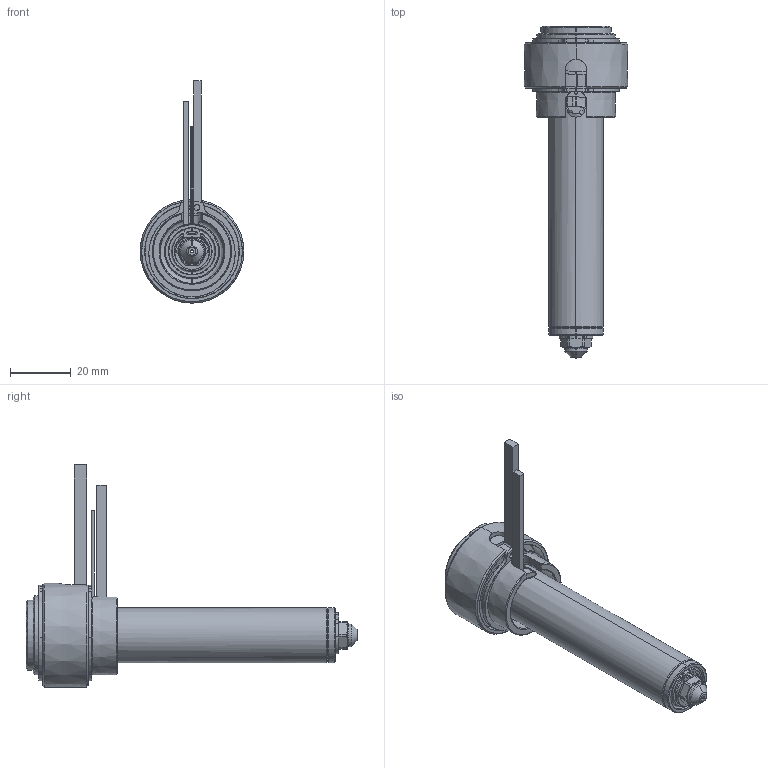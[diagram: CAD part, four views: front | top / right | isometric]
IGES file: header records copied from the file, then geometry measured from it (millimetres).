
Start section: SolidWorks IGES file using analytic representation for surfaces
Global section: file name: C:\Documents and Settings\ws-20\Desktop\TEM\UGER2503-M-A-1 [Øb-0.90 ØC-5.0].IGS; native system: SolidWorks 2012; preprocessor: SolidWorks 2012; author: ws-20; date: 120405.105220; units: millimetre
Bounding box: 34 x 108.9 x 72.9 mm (x, y, z)
Surface area: 24791.9 mm2 (no closed solid volume)
Topology: 0 solids, 0 shells, 190 faces, 2479 edges, 2479 vertices
Faces by surface type: revolution 119, bspline 71
